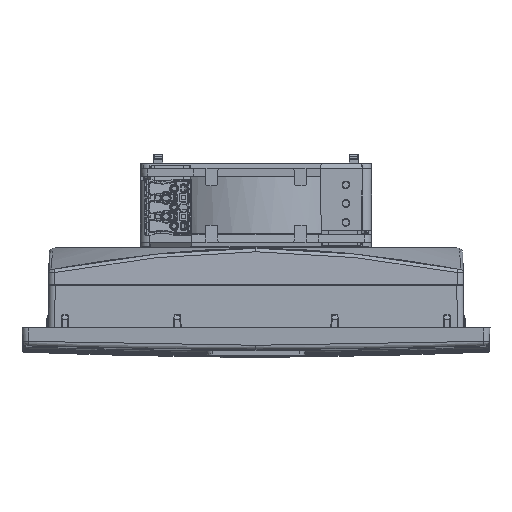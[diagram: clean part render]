
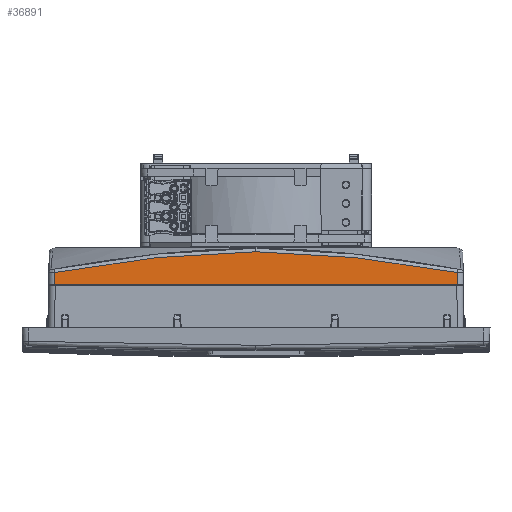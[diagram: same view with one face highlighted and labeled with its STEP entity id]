
A CAD part, top view. The second image highlights one B-rep face of the part: STEP entity #36891.
In plain terms, the highlighted planar face has unit normal (0, -0.035, -0.999).
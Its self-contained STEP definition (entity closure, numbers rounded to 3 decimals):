
#36891=ADVANCED_FACE('',(#41560),#135462,.T.);
#41560=FACE_OUTER_BOUND('',#46342,.T.);
#46342=EDGE_LOOP('',(#60079,#60080,#60081,#60082,#60083));
#60079=ORIENTED_EDGE('',*,*,#80842,.T.);
#60080=ORIENTED_EDGE('',*,*,#80843,.T.);
#60081=ORIENTED_EDGE('',*,*,#80844,.T.);
#60082=ORIENTED_EDGE('',*,*,#80845,.T.);
#60083=ORIENTED_EDGE('',*,*,#80846,.T.);
#80842=EDGE_CURVE('',#119526,#119527,#101780,.T.);
#80843=EDGE_CURVE('',#119527,#119528,#101781,.T.);
#80844=EDGE_CURVE('',#119528,#119529,#101782,.T.);
#80845=EDGE_CURVE('',#119529,#119530,#101783,.T.);
#80846=EDGE_CURVE('',#119530,#119526,#101784,.T.);
#101780=B_SPLINE_CURVE_WITH_KNOTS('',5,(#203109,#203110,#203111,#203112,
#203113,#203114,#203115,#203116,#203117,#203118,#203119,#203120,#203121,
#203122,#203123),.UNSPECIFIED.,.F.,.F.,(6,3,3,3,6),(0.,19.171,
52.829,89.938,108.223),.UNSPECIFIED.);
#101781=B_SPLINE_CURVE_WITH_KNOTS('',1,(#203124,#203125),.UNSPECIFIED.,
 .F.,.F.,(2,2),(0.,6.558),.UNSPECIFIED.);
#101782=B_SPLINE_CURVE_WITH_KNOTS('',1,(#203126,#203127),.UNSPECIFIED.,
 .F.,.F.,(2,2),(0.,215.),.UNSPECIFIED.);
#101783=B_SPLINE_CURVE_WITH_KNOTS('',1,(#203128,#203129),.UNSPECIFIED.,
 .F.,.F.,(2,2),(0.,6.558),.UNSPECIFIED.);
#101784=B_SPLINE_CURVE_WITH_KNOTS('',5,(#203130,#203131,#203132,#203133,
#203134,#203135,#203136,#203137,#203138,#203139,#203140,#203141,#203142,
#203143,#203144),.UNSPECIFIED.,.F.,.F.,(6,3,3,3,6),(0.,18.285,
55.394,89.052,108.223),.UNSPECIFIED.);
#119526=VERTEX_POINT('',#203104);
#119527=VERTEX_POINT('',#203105);
#119528=VERTEX_POINT('',#203106);
#119529=VERTEX_POINT('',#203107);
#119530=VERTEX_POINT('',#203108);
#135462=PLANE('',#136748);
#136748=AXIS2_PLACEMENT_3D('',#203103,#138001,$);
#138001=DIRECTION('',(0.,-0.035,-0.999));
#203103=CARTESIAN_POINT('',(129.06,-45.804,130.897));
#203104=CARTESIAN_POINT('',(0.,-47.632,130.961));
#203105=CARTESIAN_POINT('',(107.5,-58.738,131.349));
#203106=CARTESIAN_POINT('',(107.5,-65.293,131.578));
#203107=CARTESIAN_POINT('',(-107.5,-65.293,131.578));
#203108=CARTESIAN_POINT('',(-107.5,-58.738,131.349));
#203109=CARTESIAN_POINT('',(0.,-47.632,130.961));
#203110=CARTESIAN_POINT('',(3.745,-47.632,130.961));
#203111=CARTESIAN_POINT('',(7.489,-47.673,130.963));
#203112=CARTESIAN_POINT('',(11.237,-47.754,130.965));
#203113=CARTESIAN_POINT('',(21.578,-48.089,130.977));
#203114=CARTESIAN_POINT('',(31.978,-48.725,130.999));
#203115=CARTESIAN_POINT('',(38.634,-49.247,131.018));
#203116=CARTESIAN_POINT('',(52.706,-50.576,131.064));
#203117=CARTESIAN_POINT('',(66.883,-52.338,131.125));
#203118=CARTESIAN_POINT('',(74.333,-53.366,131.161));
#203119=CARTESIAN_POINT('',(85.452,-55.028,131.219));
#203120=CARTESIAN_POINT('',(96.543,-56.848,131.283));
#203121=CARTESIAN_POINT('',(100.201,-57.465,131.305));
#203122=CARTESIAN_POINT('',(103.853,-58.095,131.327));
#203123=CARTESIAN_POINT('',(107.5,-58.738,131.349));
#203124=CARTESIAN_POINT('',(107.5,-58.738,131.349));
#203125=CARTESIAN_POINT('',(107.5,-65.293,131.578));
#203126=CARTESIAN_POINT('',(107.5,-65.293,131.578));
#203127=CARTESIAN_POINT('',(-107.5,-65.293,131.578));
#203128=CARTESIAN_POINT('',(-107.5,-65.293,131.578));
#203129=CARTESIAN_POINT('',(-107.5,-58.738,131.349));
#203130=CARTESIAN_POINT('',(-107.5,-58.738,131.349));
#203131=CARTESIAN_POINT('',(-103.853,-58.095,131.327));
#203132=CARTESIAN_POINT('',(-100.201,-57.465,131.305));
#203133=CARTESIAN_POINT('',(-96.543,-56.848,131.283));
#203134=CARTESIAN_POINT('',(-85.452,-55.028,131.219));
#203135=CARTESIAN_POINT('',(-74.333,-53.366,131.161));
#203136=CARTESIAN_POINT('',(-66.883,-52.338,131.125));
#203137=CARTESIAN_POINT('',(-52.706,-50.576,131.064));
#203138=CARTESIAN_POINT('',(-38.634,-49.247,131.018));
#203139=CARTESIAN_POINT('',(-31.978,-48.725,130.999));
#203140=CARTESIAN_POINT('',(-21.578,-48.089,130.977));
#203141=CARTESIAN_POINT('',(-11.237,-47.754,130.965));
#203142=CARTESIAN_POINT('',(-7.489,-47.673,130.963));
#203143=CARTESIAN_POINT('',(-3.745,-47.632,130.961));
#203144=CARTESIAN_POINT('',(0.,-47.632,130.961));
